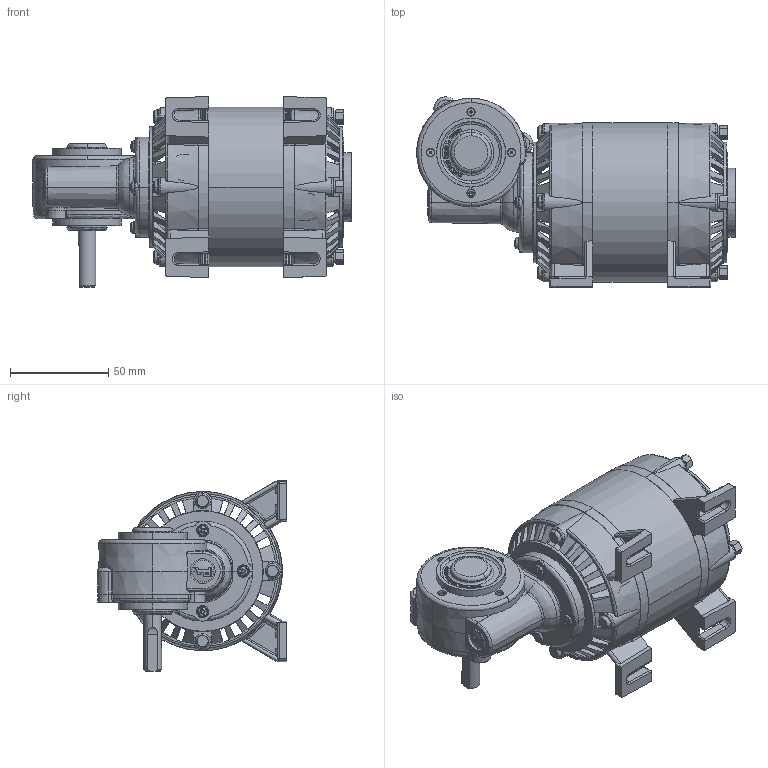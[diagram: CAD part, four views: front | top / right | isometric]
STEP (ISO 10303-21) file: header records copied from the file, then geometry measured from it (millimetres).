
FILE_DESCRIPTION (( 'STEP AP214' ), '1' );
FILE_NAME ('SD41-S.STEP', '2021-08-06T08:08:05', ( '' ), ( '' ), 'SwSTEP 2.0', 'SolidWorks 2020', '' );
FILE_SCHEMA (( 'AUTOMOTIVE_DESIGN' ));
Length unit declared in the file: millimetre
Products named in the file (1): SD41-S
Bounding box: 162.12 x 96.57 x 97.06 mm (x, y, z)
Surface area: 96312.2 mm2 (no closed solid volume)
Topology: 0 solids, 34 shells, 3607 faces, 10416 edges, 6862 vertices
Faces by surface type: plane 2127, bspline 593, cone 443, cylinder 418, torus 22, sphere 4
Entity records: 202973 total; most frequent: CARTESIAN_POINT 73799, ORIENTED_EDGE 19762, DIRECTION 16205, EDGE_CURVE 10327, VERTEX_POINT 6862, LINE 6427, VECTOR 6427, AXIS2_PLACEMENT_3D 4889
